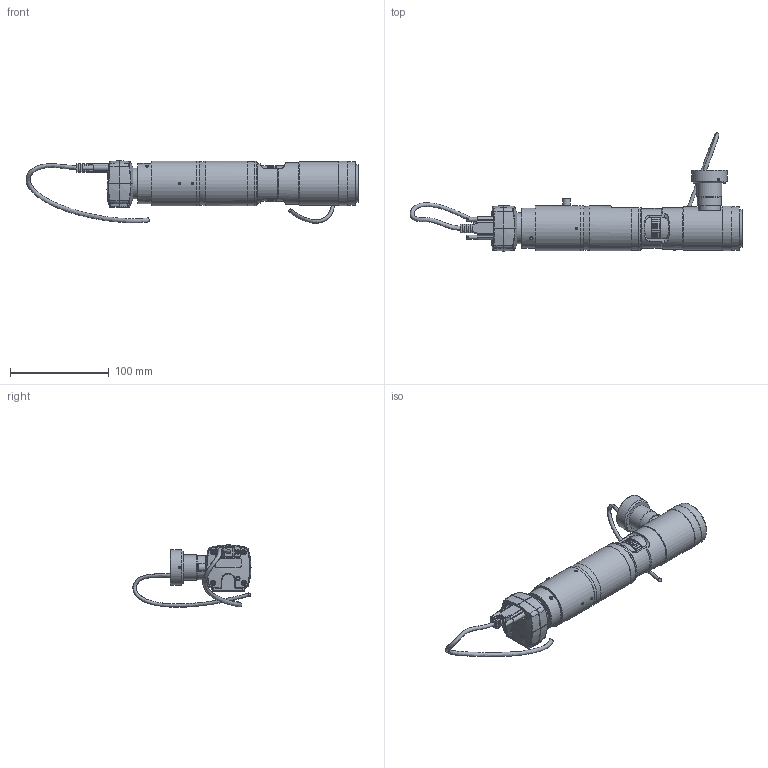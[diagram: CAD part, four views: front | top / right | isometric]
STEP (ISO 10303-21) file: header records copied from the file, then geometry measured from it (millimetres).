
FILE_DESCRIPTION(/* description */ (''),/* implementation_level */ '2;1');
FILE_NAME(/* name */ 'S:\Bureau-Technique\Vidéo\MA 730E-Z2-124-SC.stp',/* time_stamp */ '2018-10-08T09:59:08+02:00',/* author */ ('chu'),/* organization */ ('Marcel Aubert'),/* preprocessor_version */ 'ST-DEVELOPER v17.2',/* originating_system */ 'Autodesk Inventor 2019',/* authorisation */ '');
FILE_SCHEMA (('AUTOMOTIVE_DESIGN { 1 0 10303 214 3 1 1 }'));
Length unit declared in the file: millimetre
Products named in the file (1): Pièce1
Bounding box: 335.93 x 119.52 x 63.12 mm (x, y, z)
Volume: 354698.6 mm3; surface area: 91190.1 mm2
Topology: 2 solids, 12 shells, 1272 faces, 3398 edges, 2244 vertices
Faces by surface type: plane 612, cylinder 348, bspline 126, cone 112, torus 51, sphere 23
Full cylindrical faces by diameter (mm): 1.567 x2, 1.783 x2, 1.88 x4, 2 x4, 2.159 x1, 2.2 x2, 2.3 x2, 2.459 x13, 2.5 x2, 3 x6, 3.2 x1, 3.5 x5, 3.7 x1, 3.9 x2, 4 x3, 5 x2, 6.7 x1, 7.1 x2, 7.4 x2, 7.9 x1, 7.925 x1, 8.204 x1, 8.6 x3, 9.042 x1, 9.474 x1, 10.77 x1, 14.808 x2, 15.011 x1, 15.875 x1, 16 x1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
Entity records: 65066 total; most frequent: CARTESIAN_POINT 32296, ORIENTED_EDGE 6780, DIRECTION 6309, EDGE_CURVE 3390, AXIS2_PLACEMENT_3D 2435, VERTEX_POINT 2250, LINE 1439, VECTOR 1439
